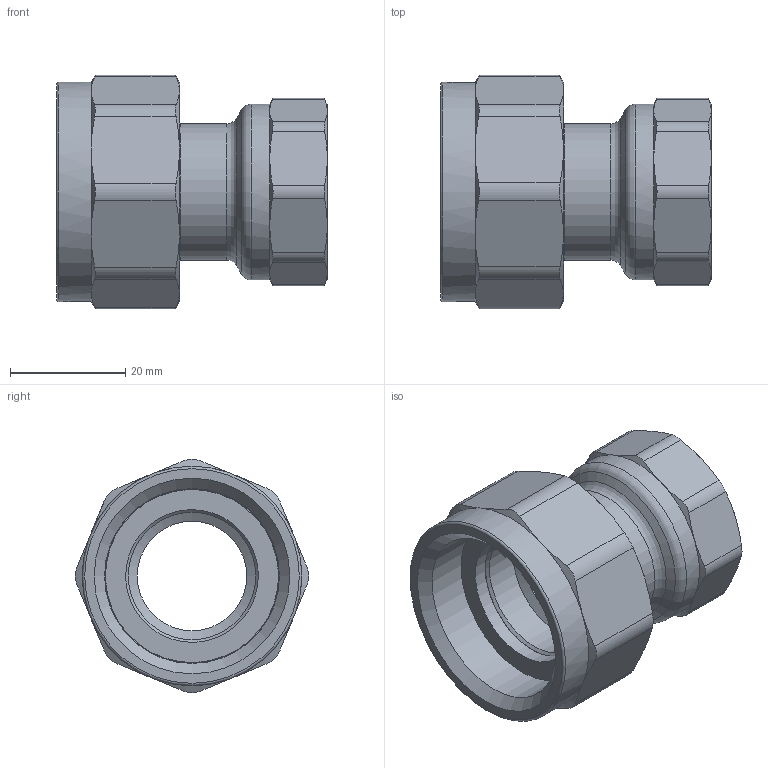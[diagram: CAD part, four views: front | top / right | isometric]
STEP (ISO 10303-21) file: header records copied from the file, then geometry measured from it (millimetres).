
FILE_DESCRIPTION(('STEP AP242'), '1');
FILE_NAME('VTr.614.N.0605', '', ('UNSPECIFIED'), ('UNSPECIFIED'), 'C3D Converter', 'C3D Toolkit', '');
FILE_SCHEMA(('AP242_MANAGED_MODEL_BASED_3D_ENGINEERING_MIM_LF { 1 0 10303 442 1 1 4 }'));
Length unit declared in the file: millimetre
Bounding box: 46.93 x 40.47 x 40.47 mm (x, y, z)
Volume: 18964 mm3; surface area: 13301.8 mm2
Topology: 2 solids, 3 shells, 106 faces, 238 edges, 141 vertices
Faces by surface type: cone 42, cylinder 29, plane 27, torus 8
Full cylindrical faces by diameter (mm): 19 x1, 22.1 x1, 23 x1, 23.6 x1, 24.118 x1, 27.1 x1, 30 x1, 30.2 x1, 30.292 x1, 30.4 x1, 30.5 x1, 33.4 x1, 38 x1
Entity records: 5238 total; most frequent: CARTESIAN_POINT 3134, ORIENTED_EDGE 406, DIRECTION 390, EDGE_CURVE 203, AXIS2_PLACEMENT_3D 179, EDGE_LOOP 144, VERTEX_POINT 139, ADVANCED_FACE 104
